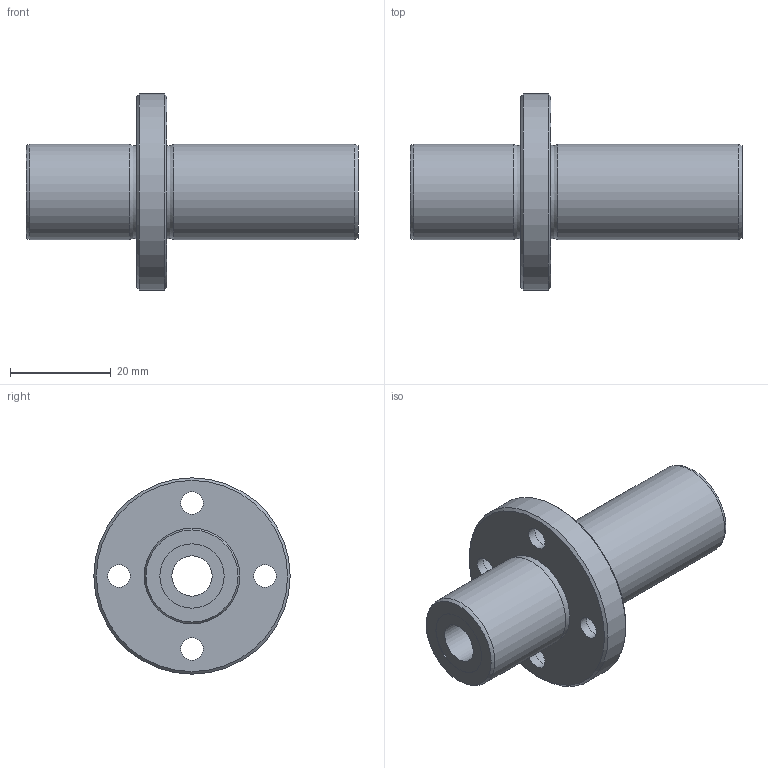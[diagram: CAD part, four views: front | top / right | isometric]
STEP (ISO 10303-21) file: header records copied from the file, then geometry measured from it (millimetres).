
FILE_DESCRIPTION((''),'2;1');
FILE_NAME('D:\製品 (図面)\カタログ用3D\リニアベアリング関連\STEP形式\LFLC\LFLC8.stp','2010-06-04T09:04:53',('Tsuchiya'),(''),'Autodesk Inventor 10','Autodesk Inventor 10','');
FILE_SCHEMA(('AUTOMOTIVE_DESIGN { 1 0 10303 214 1 1 1 1 }'));
Length unit declared in the file: millimetre
Products named in the file (1): LFLC8
Bounding box: 66 x 39 x 39 mm (x, y, z)
Volume: 19792.5 mm3; surface area: 8593.2 mm2
Topology: 1 solids, 1 shells, 30 faces, 54 edges, 34 vertices
Faces by surface type: bspline 14, cylinder 6, plane 6, cone 2, torus 2
Full cylindrical faces by diameter (mm): 8 x1, 12.8 x2, 19 x2, 39 x1
Entity records: 907 total; most frequent: CARTESIAN_POINT 371, DIRECTION 102, ORIENTED_EDGE 68, EDGE_LOOP 68, AXIS2_PLACEMENT_3D 51, FACE_BOUND 38, VERTEX_POINT 34, CIRCLE 34
